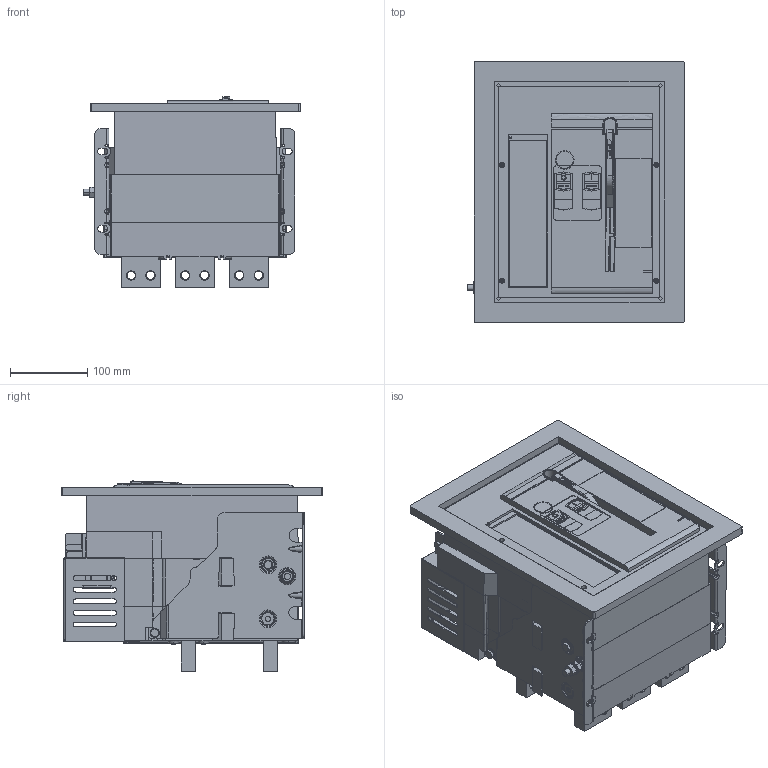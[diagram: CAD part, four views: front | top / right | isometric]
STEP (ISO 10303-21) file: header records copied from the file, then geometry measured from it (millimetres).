
FILE_DESCRIPTION (( 'STEP AP214' ), '1' );
FILE_NAME ('TGW1N-1600 F 3P 1250A-1600A.STEP', '2026-05-21T09:00:55', ( '' ), ( '' ), 'SwSTEP 2.0', 'SolidWorks 2024', '' );
FILE_SCHEMA (( 'AUTOMOTIVE_DESIGN' ));
Products named in the file (1): TGW1N-1600 F 3P 1250A-1600A
Bounding box: 280.31 x 338 x 246.06 mm (x, y, z)
Surface area: 1034480.9 mm2 (no closed solid volume)
Topology: 0 solids, 82 shells, 1927 faces, 11126 edges, 8946 vertices
Faces by surface type: plane 1136, cylinder 465, cone 164, bspline 76, torus 72, sphere 14
Entity records: 116642 total; most frequent: CARTESIAN_POINT 32965, DIRECTION 16075, ORIENTED_EDGE 15470, EDGE_CURVE 11116, VERTEX_POINT 8943, VECTOR 8251, LINE 8251, AXIS2_PLACEMENT_3D 3912
